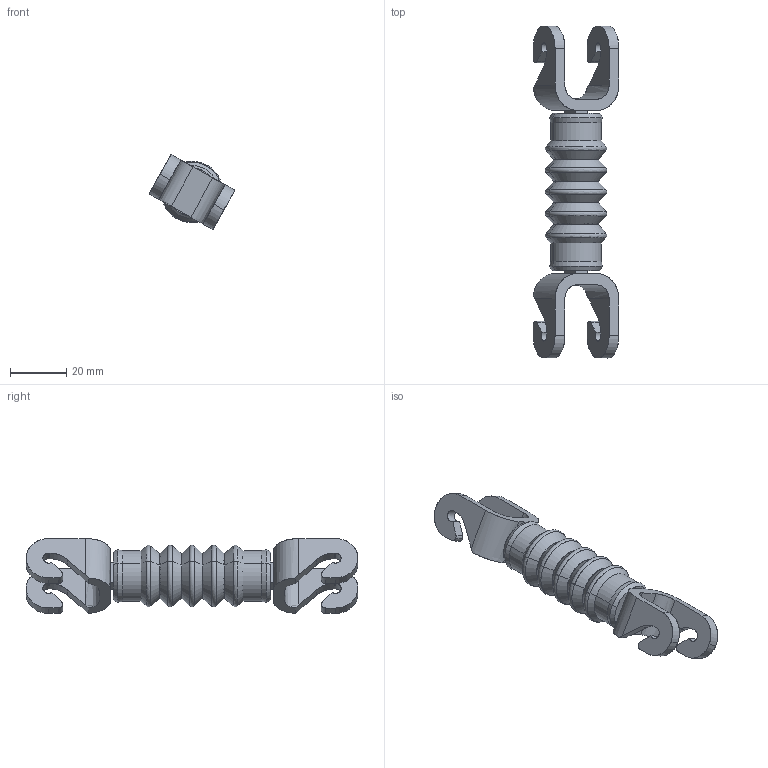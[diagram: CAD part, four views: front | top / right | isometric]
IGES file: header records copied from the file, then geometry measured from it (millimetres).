
Start section: SolidWorks IGES file using analytic representation for surfaces
Global section: file name: C:\Users\SELUHAA\Desktop\Work items\545792\IGES\IRB360_X-800-WD-4D_rev03_IGES_J\IRB360_X-800-WD-4D_rev03_LA1_CL_CAD.IGS; native system: SolidWorks 2022; preprocessor: SolidWorks 2022; author: SELUHAA; date: 231128.135105; units: millimetre
Bounding box: 30.51 x 118 x 26.65 mm (x, y, z)
Surface area: 10290.8 mm2 (no closed solid volume)
Topology: 0 solids, 0 shells, 134 faces, 1216 edges, 1216 vertices
Faces by surface type: bspline 68, revolution 66
